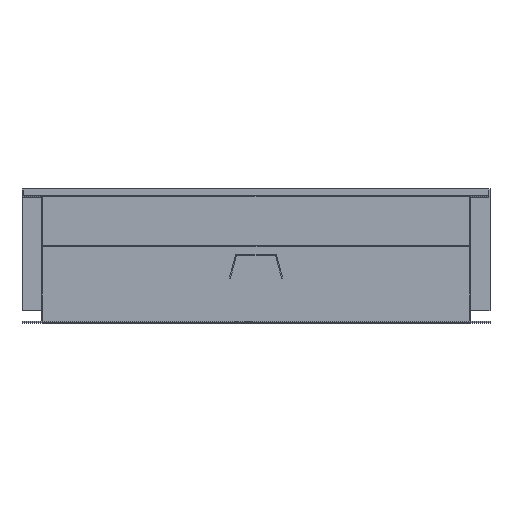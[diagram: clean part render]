
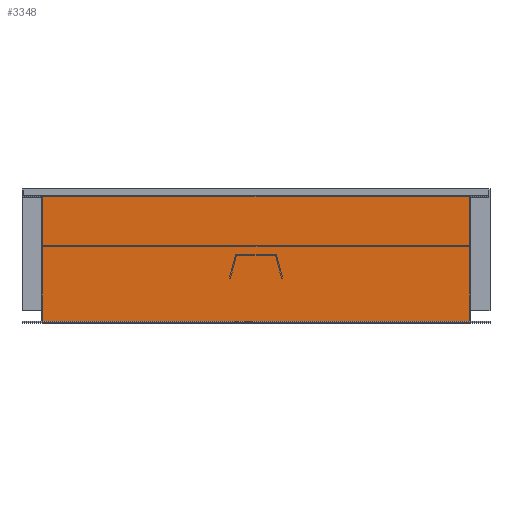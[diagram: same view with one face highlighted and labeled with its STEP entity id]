
A CAD part, top view. The second image highlights one B-rep face of the part: STEP entity #3348.
In plain terms, the highlighted planar face has unit normal (0, 0, 1).
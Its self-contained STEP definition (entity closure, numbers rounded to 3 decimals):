
#741=DIRECTION('',(1.,0.,0.));
#742=VECTOR('',#741,804.);
#743=CARTESIAN_POINT('',(-402.,-248.,402.));
#744=LINE('',#743,#742);
#801=DIRECTION('',(0.,-1.,0.));
#802=VECTOR('',#801,234.);
#803=CARTESIAN_POINT('',(-402.,-14.,402.));
#804=LINE('',#803,#802);
#805=DIRECTION('',(1.,0.,0.));
#806=VECTOR('',#805,804.);
#807=CARTESIAN_POINT('',(-402.,-14.,402.));
#808=LINE('',#807,#806);
#817=DIRECTION('',(0.,-1.,0.));
#818=VECTOR('',#817,234.);
#819=CARTESIAN_POINT('',(402.,-14.,402.));
#820=LINE('',#819,#818);
#2003=CARTESIAN_POINT('',(-402.,-14.,402.));
#2004=CARTESIAN_POINT('',(-402.,-248.,402.));
#2005=VERTEX_POINT('',#2003);
#2006=VERTEX_POINT('',#2004);
#2023=CARTESIAN_POINT('',(402.,-14.,402.));
#2024=CARTESIAN_POINT('',(402.,-248.,402.));
#2025=VERTEX_POINT('',#2023);
#2026=VERTEX_POINT('',#2024);
#3336=CARTESIAN_POINT('',(-400.,-14.,402.));
#3337=DIRECTION('',(0.,0.,1.));
#3338=DIRECTION('',(0.,-1.,0.));
#3339=AXIS2_PLACEMENT_3D('',#3336,#3337,#3338);
#3340=PLANE('',#3339);
#3341=ORIENTED_EDGE('',*,*,#3329,.F.);
#3342=ORIENTED_EDGE('',*,*,#2488,.T.);
#3344=ORIENTED_EDGE('',*,*,#3343,.T.);
#3345=ORIENTED_EDGE('',*,*,#3244,.F.);
#3346=EDGE_LOOP('',(#3341,#3342,#3344,#3345));
#3347=FACE_OUTER_BOUND('',#3346,.F.);
#2488=EDGE_CURVE('',#2005,#2025,#808,.T.);
#3244=EDGE_CURVE('',#2006,#2026,#744,.T.);
#3329=EDGE_CURVE('',#2005,#2006,#804,.T.);
#3343=EDGE_CURVE('',#2025,#2026,#820,.T.);
#3348=ADVANCED_FACE('',(#3347),#3340,.T.);
